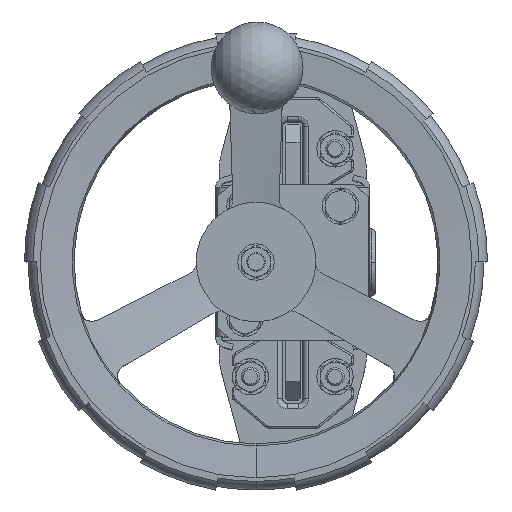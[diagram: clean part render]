
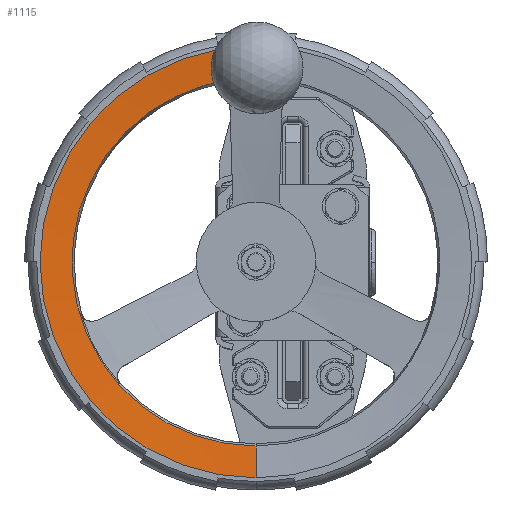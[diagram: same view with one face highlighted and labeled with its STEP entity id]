
A CAD part, top view. The second image highlights one B-rep face of the part: STEP entity #1115.
In plain terms, the highlighted conical face has half-angle 85 degrees and reference radius 117.5 mm.
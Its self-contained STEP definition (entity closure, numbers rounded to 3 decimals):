
#1115=ADVANCED_FACE('',(#3496),#3497,.F.);
#3496=FACE_OUTER_BOUND('',#9986,.T.);
#3497=CONICAL_SURFACE('',#9987,117.5,1.484);
#9986=EDGE_LOOP('',(#21865,#21866,#21867,#21868,#21869,#21870,#21871));
#9987=AXIS2_PLACEMENT_3D('',#21872,#21873,#21874);
#21865=ORIENTED_EDGE('',*,*,#29536,.T.);
#21866=ORIENTED_EDGE('',*,*,#28843,.T.);
#21867=ORIENTED_EDGE('',*,*,#31181,.T.);
#21868=ORIENTED_EDGE('',*,*,#31186,.T.);
#21869=ORIENTED_EDGE('',*,*,#31187,.F.);
#21870=ORIENTED_EDGE('',*,*,#29537,.T.);
#21871=ORIENTED_EDGE('',*,*,#31188,.F.);
#21872=CARTESIAN_POINT('',(-20.,0.,462.02));
#21873=DIRECTION('',(0.,0.,1.));
#21874=DIRECTION('',(0.,-1.,0.));
#28843=EDGE_CURVE('',#33251,#33249,#33252,.T.);
#29536=EDGE_CURVE('',#34084,#33251,#34618,.T.);
#29537=EDGE_CURVE('',#34619,#34081,#34620,.T.);
#31181=EDGE_CURVE('',#33249,#37323,#37325,.T.);
#31186=EDGE_CURVE('',#37323,#37331,#37332,.T.);
#31187=EDGE_CURVE('',#34619,#37331,#37333,.T.);
#31188=EDGE_CURVE('',#34084,#34081,#37334,.T.);
#33249=VERTEX_POINT('',#39968);
#33251=VERTEX_POINT('',#39973);
#33252=CIRCLE('',#39974,100.133);
#34081=VERTEX_POINT('',#41359);
#34084=VERTEX_POINT('',#41363);
#34618=LINE('',#42601,#42602);
#34619=VERTEX_POINT('',#42603);
#34620=LINE('',#42604,#42605);
#37323=VERTEX_POINT('',#49383);
#37325=B_SPLINE_CURVE_WITH_KNOTS('',3,(#49386,#49387,#49388,#49389,#49390,#49391),.UNSPECIFIED.,.F.,.F.,(4,2,4),(0.001,0.004,0.007),.UNSPECIFIED.);
#37331=VERTEX_POINT('',#49399);
#37332=B_SPLINE_CURVE_WITH_KNOTS('',3,(#49400,#49401,#49402,#49403,#49404,#49405,#49406),.UNSPECIFIED.,.F.,.F.,(4,3,4),(0.021,0.023,0.033),.UNSPECIFIED.);
#37333=CIRCLE('',#49407,117.278);
#37334=CIRCLE('',#49408,117.5);
#39968=CARTESIAN_POINT('',(-31.226,99.502,460.501));
#39973=CARTESIAN_POINT('',(-20.,-100.133,460.501));
#39974=AXIS2_PLACEMENT_3D('',#53860,#53861,#53862);
#41359=CARTESIAN_POINT('',(-20.,117.5,462.02));
#41363=CARTESIAN_POINT('',(-20.,-117.5,462.02));
#42601=CARTESIAN_POINT('',(-20.,-117.5,462.02));
#42602=VECTOR('',#55187,1.);
#42603=CARTESIAN_POINT('',(-20.,117.278,462.001));
#42604=CARTESIAN_POINT('',(-20.,117.5,462.02));
#42605=VECTOR('',#55188,1.);
#49383=CARTESIAN_POINT('',(-32.5,105.,460.992));
#49386=CARTESIAN_POINT('',(-31.226,99.502,460.501));
#49387=CARTESIAN_POINT('',(-31.643,100.353,460.579));
#49388=CARTESIAN_POINT('',(-31.961,101.244,460.66));
#49389=CARTESIAN_POINT('',(-32.393,103.111,460.826));
#49390=CARTESIAN_POINT('',(-32.5,104.053,460.909));
#49391=CARTESIAN_POINT('',(-32.5,105.,460.992));
#49399=CARTESIAN_POINT('',(-32.5,116.61,462.001));
#49400=CARTESIAN_POINT('',(-32.5,105.,460.992));
#49401=CARTESIAN_POINT('',(-32.5,105.524,461.037));
#49402=CARTESIAN_POINT('',(-32.5,106.049,461.083));
#49403=CARTESIAN_POINT('',(-32.5,106.573,461.128));
#49404=CARTESIAN_POINT('',(-32.5,109.919,461.419));
#49405=CARTESIAN_POINT('',(-32.5,113.264,461.71));
#49406=CARTESIAN_POINT('',(-32.5,116.61,462.001));
#49407=AXIS2_PLACEMENT_3D('',#57772,#57773,#57774);
#49408=AXIS2_PLACEMENT_3D('',#57775,#57776,#57777);
#53860=CARTESIAN_POINT('',(-20.,0.,460.501));
#53861=DIRECTION('',(0.,0.,-1.));
#53862=DIRECTION('',(0.,1.,0.));
#55187=DIRECTION('',(0.,0.996,-0.087));
#55188=DIRECTION('',(0.,0.996,0.087));
#57772=CARTESIAN_POINT('',(-20.,0.,462.001));
#57773=DIRECTION('',(0.,0.,1.));
#57774=DIRECTION('',(1.,0.,0.));
#57775=CARTESIAN_POINT('',(-20.,0.,462.02));
#57776=DIRECTION('',(0.,0.,-1.));
#57777=DIRECTION('',(0.,1.,0.));
